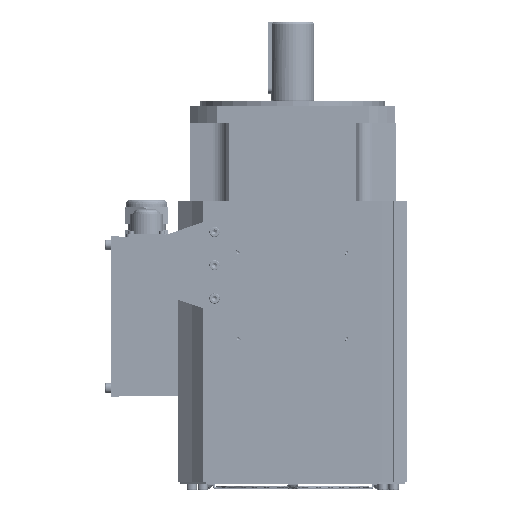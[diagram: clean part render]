
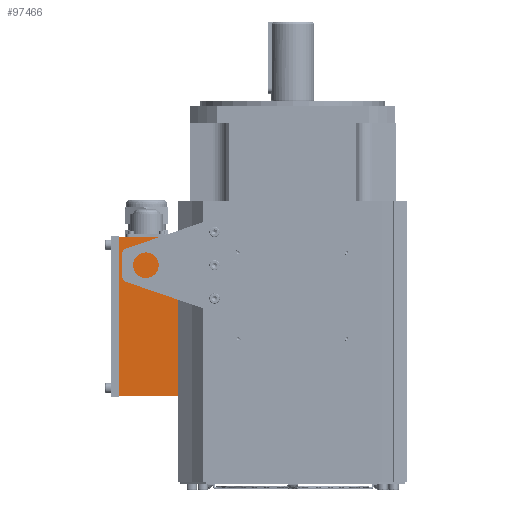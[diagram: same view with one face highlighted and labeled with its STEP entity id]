
A CAD part, left-side view. The second image highlights one B-rep face of the part: STEP entity #97466.
In plain terms, the highlighted planar face has unit normal (-1, 0, 0) as drawn and (1, 0, 0) by its records, which use the part's own axes.
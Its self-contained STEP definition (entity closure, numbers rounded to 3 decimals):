
#3302 = LINE ( 'NONE', #137667, #135277 ) ;
#5098 = VERTEX_POINT ( 'NONE', #117721 ) ;
#10267 = LINE ( 'NONE', #187074, #119544 ) ;
#12077 = CARTESIAN_POINT ( 'NONE',  ( 57.636, 146.795, 331.5 ) ) ;
#13057 = FACE_OUTER_BOUND ( 'NONE', #57732, .T. ) ;
#15391 = EDGE_CURVE ( 'NONE', #93491, #5098, #96491, .T. ) ;
#20783 = ORIENTED_EDGE ( 'NONE', *, *, #90089, .F. ) ;
#27949 = VERTEX_POINT ( 'NONE', #89068 ) ;
#28526 = DIRECTION ( 'NONE',  ( -1., 0., 0. ) ) ;
#35737 = DIRECTION ( 'NONE',  ( 0., -1., 0. ) ) ;
#37297 = VECTOR ( 'NONE', #50825, 1000. ) ;
#38708 = CARTESIAN_POINT ( 'NONE',  ( 57.636, 146.795, 486.5 ) ) ;
#45073 = ORIENTED_EDGE ( 'NONE', *, *, #15391, .T. ) ;
#48187 = CARTESIAN_POINT ( 'NONE',  ( 57.636, 148.295, 486.5 ) ) ;
#50825 = DIRECTION ( 'NONE',  ( 0., -1., 0. ) ) ;
#57732 = EDGE_LOOP ( 'NONE', ( #160676, #148269, #45073, #20783 ) ) ;
#71720 = PLANE ( 'NONE',  #174057 ) ;
#89068 = CARTESIAN_POINT ( 'NONE',  ( 57.636, 86.295, 331.5 ) ) ;
#90089 = EDGE_CURVE ( 'NONE', #27949, #5098, #145288, .T. ) ;
#93273 = DIRECTION ( 'NONE',  ( 0., 0., 1. ) ) ;
#93491 = VERTEX_POINT ( 'NONE', #48187 ) ;
#96491 = LINE ( 'NONE', #38708, #37297 ) ;
#97466 = ADVANCED_FACE ( 'NONE', ( #13057 ), #71720, .F. ) ;
#117721 = CARTESIAN_POINT ( 'NONE',  ( 57.636, 86.295, 486.5 ) ) ;
#117733 = EDGE_CURVE ( 'NONE', #93491, #135650, #10267, .T. ) ;
#119544 = VECTOR ( 'NONE', #188268, 1000. ) ;
#124065 = CARTESIAN_POINT ( 'NONE',  ( 57.636, 148.295, 331.5 ) ) ;
#128499 = DIRECTION ( 'NONE',  ( 0., 0., 1. ) ) ;
#133638 = EDGE_CURVE ( 'NONE', #135650, #27949, #3302, .T. ) ;
#135277 = VECTOR ( 'NONE', #35737, 1000. ) ;
#135650 = VERTEX_POINT ( 'NONE', #124065 ) ;
#137667 = CARTESIAN_POINT ( 'NONE',  ( 57.636, 146.795, 331.5 ) ) ;
#145288 = LINE ( 'NONE', #180522, #181583 ) ;
#148269 = ORIENTED_EDGE ( 'NONE', *, *, #117733, .F. ) ;
#160676 = ORIENTED_EDGE ( 'NONE', *, *, #133638, .F. ) ;
#174057 = AXIS2_PLACEMENT_3D ( 'NONE', #12077, #28526, #128499 ) ;
#180522 = CARTESIAN_POINT ( 'NONE',  ( 57.636, 86.295, 409. ) ) ;
#181583 = VECTOR ( 'NONE', #93273, 1000. ) ;
#187074 = CARTESIAN_POINT ( 'NONE',  ( 57.636, 148.295, 331.5 ) ) ;
#188268 = DIRECTION ( 'NONE',  ( 0., 0., -1. ) ) ;
